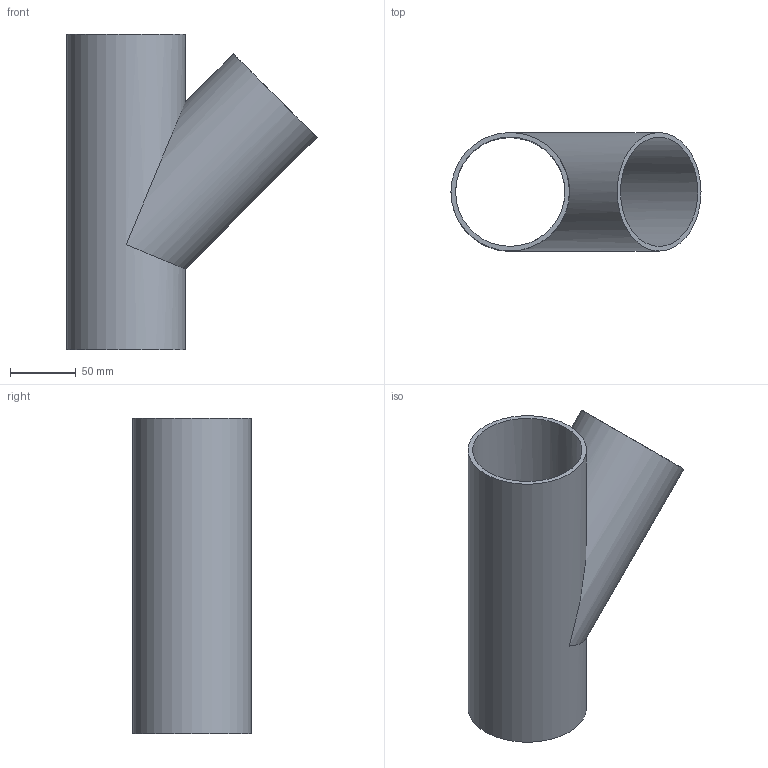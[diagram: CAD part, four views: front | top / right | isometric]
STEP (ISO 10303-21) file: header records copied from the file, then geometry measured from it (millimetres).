
FILE_DESCRIPTION(/* description */ (''),/* implementation_level */ '2;1');
FILE_NAME(/* name */ 'C:\Planerdaten\Export PLA\PRO_101557\stp\366130.stp',/* time_stamp */ '2021-09-30T15:06:02+02:00',/* author */ ('JANAN'),/* organization */ (''),/* preprocessor_version */ 'ST-DEVELOPER v16.13',/* originating_system */ 'Autodesk Inventor 2018',/* authorisation */ '');
FILE_SCHEMA (('AUTOMOTIVE_DESIGN { 1 0 10303 214 3 1 1 }'));
Length unit declared in the file: millimetre
Products named in the file (1): tmp5251.tmp
Bounding box: 189.96 x 90 x 240 mm (x, y, z)
Volume: 306336 mm3; surface area: 177856.3 mm2
Topology: 1 solids, 1 shells, 7 faces, 19 edges, 14 vertices
Faces by surface type: cylinder 4, plane 3
Full cylindrical faces by diameter (mm): 83 x2, 90 x2
Entity records: 228 total; most frequent: DIRECTION 36, CARTESIAN_POINT 28, ORIENTED_EDGE 20, AXIS2_PLACEMENT_3D 18, EDGE_LOOP 16, VERTEX_POINT 10, EDGE_CURVE 10, FACE_BOUND 9
